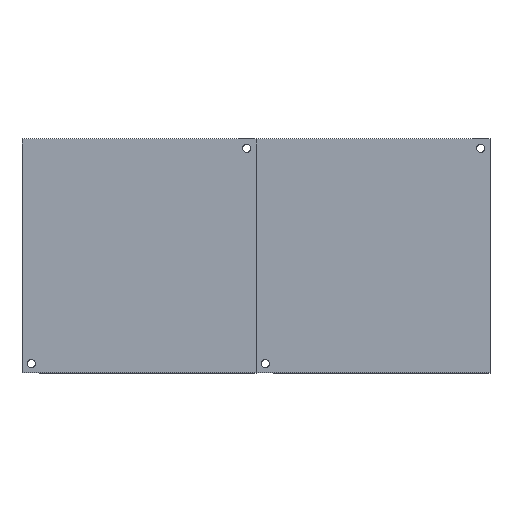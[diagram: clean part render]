
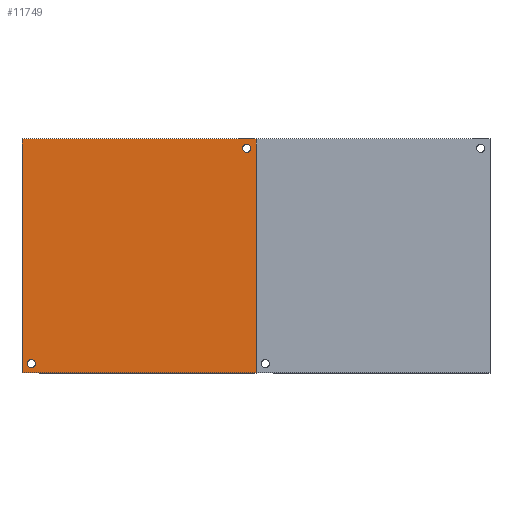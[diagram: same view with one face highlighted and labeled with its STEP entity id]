
A CAD part, top view. The second image highlights one B-rep face of the part: STEP entity #11749.
In plain terms, the highlighted planar face has unit normal (0, 0, 1).
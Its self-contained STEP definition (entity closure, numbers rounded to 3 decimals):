
#10877=CARTESIAN_POINT('',(1998.791,-636.175,841.195));
#10878=VERTEX_POINT('',#10877);
#10887=CARTESIAN_POINT('',(1998.791,-632.675,841.195));
#10888=VERTEX_POINT('',#10887);
#10889=CARTESIAN_POINT('',(1998.791,-634.425,841.195));
#10890=DIRECTION('',(0.0,0.0,-1.0));
#10891=DIRECTION('',(0.0,-1.0,0.0));
#10892=AXIS2_PLACEMENT_3D('',#10889,#10890,#10891);
#10893=CIRCLE('',#10892,1.75);
#10894=EDGE_CURVE('',#10888,#10878,#10893,.T.);
#10919=CARTESIAN_POINT('',(2090.791,-544.175,841.195));
#10920=VERTEX_POINT('',#10919);
#10929=CARTESIAN_POINT('',(2090.791,-540.675,841.195));
#10930=VERTEX_POINT('',#10929);
#10931=CARTESIAN_POINT('',(2090.791,-542.425,841.195));
#10932=DIRECTION('',(0.0,0.0,-1.0));
#10933=DIRECTION('',(0.0,-1.0,0.0));
#10934=AXIS2_PLACEMENT_3D('',#10931,#10932,#10933);
#10935=CIRCLE('',#10934,1.75);
#10936=EDGE_CURVE('',#10930,#10920,#10935,.T.);
#11448=CARTESIAN_POINT('',(2090.791,-542.425,841.195));
#11449=DIRECTION('',(0.0,0.0,-1.0));
#11450=DIRECTION('',(0.0,-1.0,0.0));
#11451=AXIS2_PLACEMENT_3D('',#11448,#11449,#11450);
#11452=CIRCLE('',#11451,1.75);
#11453=EDGE_CURVE('',#10920,#10930,#11452,.T.);
#11472=CARTESIAN_POINT('',(1998.791,-634.425,841.195));
#11473=DIRECTION('',(0.0,0.0,-1.0));
#11474=DIRECTION('',(0.0,-1.0,0.0));
#11475=AXIS2_PLACEMENT_3D('',#11472,#11473,#11474);
#11476=CIRCLE('',#11475,1.75);
#11477=EDGE_CURVE('',#10878,#10888,#11476,.T.);
#11549=CARTESIAN_POINT('',(1994.791,-638.425,841.195));
#11550=VERTEX_POINT('',#11549);
#11557=CARTESIAN_POINT('',(1994.791,-538.425,841.195));
#11558=VERTEX_POINT('',#11557);
#11559=CARTESIAN_POINT('',(1994.791,-638.425,841.195));
#11560=DIRECTION('',(0.0,1.0,0.0));
#11561=VECTOR('',#11560,100.0);
#11562=LINE('',#11559,#11561);
#11563=EDGE_CURVE('',#11550,#11558,#11562,.T.);
#11597=CARTESIAN_POINT('',(2094.791,-638.425,841.195));
#11598=VERTEX_POINT('',#11597);
#11605=CARTESIAN_POINT('',(2094.791,-638.425,841.195));
#11606=DIRECTION('',(-1.0,0.0,0.0));
#11607=VECTOR('',#11606,100.0);
#11608=LINE('',#11605,#11607);
#11609=EDGE_CURVE('',#11598,#11550,#11608,.T.);
#11682=CARTESIAN_POINT('',(2094.791,-538.425,841.195));
#11683=VERTEX_POINT('',#11682);
#11690=CARTESIAN_POINT('',(2094.791,-538.425,841.195));
#11691=DIRECTION('',(0.0,-1.0,0.0));
#11692=VECTOR('',#11691,100.0);
#11693=LINE('',#11690,#11692);
#11694=EDGE_CURVE('',#11683,#11598,#11693,.T.);
#11719=CARTESIAN_POINT('',(1994.791,-538.425,841.195));
#11720=DIRECTION('',(1.0,0.0,0.0));
#11721=VECTOR('',#11720,100.0);
#11722=LINE('',#11719,#11721);
#11723=EDGE_CURVE('',#11558,#11683,#11722,.T.);
#11730=CARTESIAN_POINT('',(1994.791,-638.425,841.195));
#11731=DIRECTION('',(0.0,0.0,1.0));
#11732=DIRECTION('',(1.0,0.0,0.0));
#11733=AXIS2_PLACEMENT_3D('',#11730,#11731,#11732);
#11734=PLANE('',#11733);
#11735=ORIENTED_EDGE('',*,*,#11563,.F.);
#11736=ORIENTED_EDGE('',*,*,#11609,.F.);
#11737=ORIENTED_EDGE('',*,*,#11694,.F.);
#11738=ORIENTED_EDGE('',*,*,#11723,.F.);
#11739=EDGE_LOOP('',(#11735,#11736,#11737,#11738));
#11740=FACE_OUTER_BOUND('',#11739,.T.);
#11741=ORIENTED_EDGE('',*,*,#11453,.T.);
#11742=ORIENTED_EDGE('',*,*,#10936,.T.);
#11743=EDGE_LOOP('',(#11741,#11742));
#11744=FACE_BOUND('',#11743,.T.);
#11745=ORIENTED_EDGE('',*,*,#11477,.T.);
#11746=ORIENTED_EDGE('',*,*,#10894,.T.);
#11747=EDGE_LOOP('',(#11745,#11746));
#11748=FACE_BOUND('',#11747,.T.);
#11749=ADVANCED_FACE('',(#11740,#11744,#11748),#11734,.T.);
